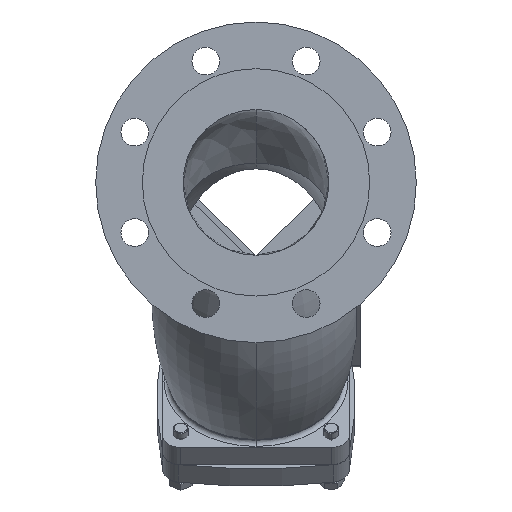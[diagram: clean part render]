
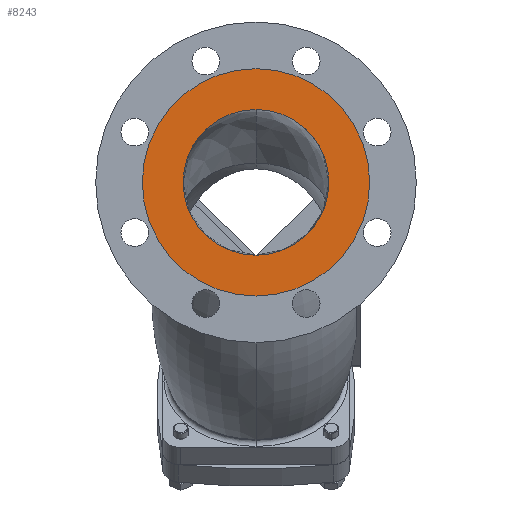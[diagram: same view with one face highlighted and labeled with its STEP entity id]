
A CAD part, left-side view. The second image highlights one B-rep face of the part: STEP entity #8243.
In plain terms, the highlighted planar face has unit normal (-1, 0, 0).
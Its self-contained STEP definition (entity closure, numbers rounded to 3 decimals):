
#7931 = CYLINDRICAL_SURFACE('',#7932,50.);
#7932 = AXIS2_PLACEMENT_3D('',#7933,#7934,#7935);
#7933 = CARTESIAN_POINT('',(336.347,-11.593,
    -56.933));
#7934 = DIRECTION('',(-1.,0.,0.));
#7935 = DIRECTION('',(0.,-1.,0.));
#8002 = CYLINDRICAL_SURFACE('',#8003,50.);
#8003 = AXIS2_PLACEMENT_3D('',#8004,#8005,#8006);
#8004 = CARTESIAN_POINT('',(336.347,-11.593,
    -56.933));
#8005 = DIRECTION('',(-1.,0.,0.));
#8006 = DIRECTION('',(0.,-1.,0.));
#8167 = VERTEX_POINT('',#8168);
#8168 = CARTESIAN_POINT('',(176.925,-61.593,
    -56.933));
#8189 = EDGE_CURVE('',#8190,#8167,#8192,.T.);
#8190 = VERTEX_POINT('',#8191);
#8191 = CARTESIAN_POINT('',(176.925,38.407,
    -56.933));
#8192 = SURFACE_CURVE('',#8193,(#8198,#8205),.PCURVE_S1.);
#8193 = CIRCLE('',#8194,50.);
#8194 = AXIS2_PLACEMENT_3D('',#8195,#8196,#8197);
#8195 = CARTESIAN_POINT('',(176.925,-11.593,
    -56.933));
#8196 = DIRECTION('',(-1.,0.,0.));
#8197 = DIRECTION('',(0.,-1.,0.));
#8198 = PCURVE('',#8002,#8199);
#8199 = DEFINITIONAL_REPRESENTATION('',(#8200),#8204);
#8200 = LINE('',#8201,#8202);
#8201 = CARTESIAN_POINT('',(0.,159.421));
#8202 = VECTOR('',#8203,1.);
#8203 = DIRECTION('',(1.,0.));
#8204 = ( GEOMETRIC_REPRESENTATION_CONTEXT(2) 
PARAMETRIC_REPRESENTATION_CONTEXT() REPRESENTATION_CONTEXT('2D SPACE',''
  ) );
#8205 = PCURVE('',#8206,#8211);
#8206 = PLANE('',#8207);
#8207 = AXIS2_PLACEMENT_3D('',#8208,#8209,#8210);
#8208 = CARTESIAN_POINT('',(176.925,-11.593,
    -56.933));
#8209 = DIRECTION('',(1.,0.,0.));
#8210 = DIRECTION('',(0.,1.,0.));
#8211 = DEFINITIONAL_REPRESENTATION('',(#8212),#8220);
#8212 = ( BOUNDED_CURVE() B_SPLINE_CURVE(2,(#8213,#8214,#8215,#8216,
#8217,#8218,#8219),.UNSPECIFIED.,.T.,.F.) B_SPLINE_CURVE_WITH_KNOTS((1,2
    ,2,2,2,1),(-2.094,0.,2.094,4.189,
6.283,8.378),.UNSPECIFIED.) CURVE() 
GEOMETRIC_REPRESENTATION_ITEM() RATIONAL_B_SPLINE_CURVE((1.,0.5,1.,0.5,
1.,0.5,1.)) REPRESENTATION_ITEM('') );
#8213 = CARTESIAN_POINT('',(-50.,0.));
#8214 = CARTESIAN_POINT('',(-50.,86.603));
#8215 = CARTESIAN_POINT('',(25.,43.301));
#8216 = CARTESIAN_POINT('',(100.,0.));
#8217 = CARTESIAN_POINT('',(25.,-43.301));
#8218 = CARTESIAN_POINT('',(-50.,-86.603));
#8219 = CARTESIAN_POINT('',(-50.,0.));
#8220 = ( GEOMETRIC_REPRESENTATION_CONTEXT(2) 
PARAMETRIC_REPRESENTATION_CONTEXT() REPRESENTATION_CONTEXT('2D SPACE',''
  ) );
#8243 = ADVANCED_FACE('',(#8244,#8312),#8206,.F.);
#8244 = FACE_BOUND('',#8245,.T.);
#8245 = EDGE_LOOP('',(#8246,#8281));
#8246 = ORIENTED_EDGE('',*,*,#8247,.T.);
#8247 = EDGE_CURVE('',#8248,#8250,#8252,.T.);
#8248 = VERTEX_POINT('',#8249);
#8249 = CARTESIAN_POINT('',(176.925,-89.593,
    -56.933));
#8250 = VERTEX_POINT('',#8251);
#8251 = CARTESIAN_POINT('',(176.925,66.407,
    -56.933));
#8252 = SURFACE_CURVE('',#8253,(#8258,#8269),.PCURVE_S1.);
#8253 = CIRCLE('',#8254,78.);
#8254 = AXIS2_PLACEMENT_3D('',#8255,#8256,#8257);
#8255 = CARTESIAN_POINT('',(176.925,-11.593,
    -56.933));
#8256 = DIRECTION('',(-1.,0.,0.));
#8257 = DIRECTION('',(0.,-1.,0.));
#8258 = PCURVE('',#8206,#8259);
#8259 = DEFINITIONAL_REPRESENTATION('',(#8260),#8268);
#8260 = ( BOUNDED_CURVE() B_SPLINE_CURVE(2,(#8261,#8262,#8263,#8264,
#8265,#8266,#8267),.UNSPECIFIED.,.T.,.F.) B_SPLINE_CURVE_WITH_KNOTS((1,2
    ,2,2,2,1),(-2.094,0.,2.094,4.189,
6.283,8.378),.UNSPECIFIED.) CURVE() 
GEOMETRIC_REPRESENTATION_ITEM() RATIONAL_B_SPLINE_CURVE((1.,0.5,1.,0.5,
1.,0.5,1.)) REPRESENTATION_ITEM('') );
#8261 = CARTESIAN_POINT('',(-78.,0.));
#8262 = CARTESIAN_POINT('',(-78.,135.1));
#8263 = CARTESIAN_POINT('',(39.,67.55));
#8264 = CARTESIAN_POINT('',(156.,0.));
#8265 = CARTESIAN_POINT('',(39.,-67.55));
#8266 = CARTESIAN_POINT('',(-78.,-135.1));
#8267 = CARTESIAN_POINT('',(-78.,0.));
#8268 = ( GEOMETRIC_REPRESENTATION_CONTEXT(2) 
PARAMETRIC_REPRESENTATION_CONTEXT() REPRESENTATION_CONTEXT('2D SPACE',''
  ) );
#8269 = PCURVE('',#8270,#8275);
#8270 = CYLINDRICAL_SURFACE('',#8271,78.);
#8271 = AXIS2_PLACEMENT_3D('',#8272,#8273,#8274);
#8272 = CARTESIAN_POINT('',(166.925,-11.593,
    -56.933));
#8273 = DIRECTION('',(-1.,0.,0.));
#8274 = DIRECTION('',(0.,-1.,0.));
#8275 = DEFINITIONAL_REPRESENTATION('',(#8276),#8280);
#8276 = LINE('',#8277,#8278);
#8277 = CARTESIAN_POINT('',(0.,-10.));
#8278 = VECTOR('',#8279,1.);
#8279 = DIRECTION('',(1.,0.));
#8280 = ( GEOMETRIC_REPRESENTATION_CONTEXT(2) 
PARAMETRIC_REPRESENTATION_CONTEXT() REPRESENTATION_CONTEXT('2D SPACE',''
  ) );
#8281 = ORIENTED_EDGE('',*,*,#8282,.T.);
#8282 = EDGE_CURVE('',#8250,#8248,#8283,.T.);
#8283 = SURFACE_CURVE('',#8284,(#8289,#8300),.PCURVE_S1.);
#8284 = CIRCLE('',#8285,78.);
#8285 = AXIS2_PLACEMENT_3D('',#8286,#8287,#8288);
#8286 = CARTESIAN_POINT('',(176.925,-11.593,
    -56.933));
#8287 = DIRECTION('',(-1.,0.,0.));
#8288 = DIRECTION('',(0.,-1.,0.));
#8289 = PCURVE('',#8206,#8290);
#8290 = DEFINITIONAL_REPRESENTATION('',(#8291),#8299);
#8291 = ( BOUNDED_CURVE() B_SPLINE_CURVE(2,(#8292,#8293,#8294,#8295,
#8296,#8297,#8298),.UNSPECIFIED.,.T.,.F.) B_SPLINE_CURVE_WITH_KNOTS((1,2
    ,2,2,2,1),(-2.094,0.,2.094,4.189,
6.283,8.378),.UNSPECIFIED.) CURVE() 
GEOMETRIC_REPRESENTATION_ITEM() RATIONAL_B_SPLINE_CURVE((1.,0.5,1.,0.5,
1.,0.5,1.)) REPRESENTATION_ITEM('') );
#8292 = CARTESIAN_POINT('',(-78.,0.));
#8293 = CARTESIAN_POINT('',(-78.,135.1));
#8294 = CARTESIAN_POINT('',(39.,67.55));
#8295 = CARTESIAN_POINT('',(156.,0.));
#8296 = CARTESIAN_POINT('',(39.,-67.55));
#8297 = CARTESIAN_POINT('',(-78.,-135.1));
#8298 = CARTESIAN_POINT('',(-78.,0.));
#8299 = ( GEOMETRIC_REPRESENTATION_CONTEXT(2) 
PARAMETRIC_REPRESENTATION_CONTEXT() REPRESENTATION_CONTEXT('2D SPACE',''
  ) );
#8300 = PCURVE('',#8301,#8306);
#8301 = CYLINDRICAL_SURFACE('',#8302,78.);
#8302 = AXIS2_PLACEMENT_3D('',#8303,#8304,#8305);
#8303 = CARTESIAN_POINT('',(166.925,-11.593,
    -56.933));
#8304 = DIRECTION('',(-1.,0.,0.));
#8305 = DIRECTION('',(0.,-1.,0.));
#8306 = DEFINITIONAL_REPRESENTATION('',(#8307),#8311);
#8307 = LINE('',#8308,#8309);
#8308 = CARTESIAN_POINT('',(0.,-10.));
#8309 = VECTOR('',#8310,1.);
#8310 = DIRECTION('',(1.,0.));
#8311 = ( GEOMETRIC_REPRESENTATION_CONTEXT(2) 
PARAMETRIC_REPRESENTATION_CONTEXT() REPRESENTATION_CONTEXT('2D SPACE',''
  ) );
#8312 = FACE_BOUND('',#8313,.T.);
#8313 = EDGE_LOOP('',(#8314,#8340));
#8314 = ORIENTED_EDGE('',*,*,#8315,.F.);
#8315 = EDGE_CURVE('',#8167,#8190,#8316,.T.);
#8316 = SURFACE_CURVE('',#8317,(#8322,#8333),.PCURVE_S1.);
#8317 = CIRCLE('',#8318,50.);
#8318 = AXIS2_PLACEMENT_3D('',#8319,#8320,#8321);
#8319 = CARTESIAN_POINT('',(176.925,-11.593,
    -56.933));
#8320 = DIRECTION('',(-1.,0.,0.));
#8321 = DIRECTION('',(0.,-1.,0.));
#8322 = PCURVE('',#8206,#8323);
#8323 = DEFINITIONAL_REPRESENTATION('',(#8324),#8332);
#8324 = ( BOUNDED_CURVE() B_SPLINE_CURVE(2,(#8325,#8326,#8327,#8328,
#8329,#8330,#8331),.UNSPECIFIED.,.T.,.F.) B_SPLINE_CURVE_WITH_KNOTS((1,2
    ,2,2,2,1),(-2.094,0.,2.094,4.189,
6.283,8.378),.UNSPECIFIED.) CURVE() 
GEOMETRIC_REPRESENTATION_ITEM() RATIONAL_B_SPLINE_CURVE((1.,0.5,1.,0.5,
1.,0.5,1.)) REPRESENTATION_ITEM('') );
#8325 = CARTESIAN_POINT('',(-50.,0.));
#8326 = CARTESIAN_POINT('',(-50.,86.603));
#8327 = CARTESIAN_POINT('',(25.,43.301));
#8328 = CARTESIAN_POINT('',(100.,0.));
#8329 = CARTESIAN_POINT('',(25.,-43.301));
#8330 = CARTESIAN_POINT('',(-50.,-86.603));
#8331 = CARTESIAN_POINT('',(-50.,0.));
#8332 = ( GEOMETRIC_REPRESENTATION_CONTEXT(2) 
PARAMETRIC_REPRESENTATION_CONTEXT() REPRESENTATION_CONTEXT('2D SPACE',''
  ) );
#8333 = PCURVE('',#7931,#8334);
#8334 = DEFINITIONAL_REPRESENTATION('',(#8335),#8339);
#8335 = LINE('',#8336,#8337);
#8336 = CARTESIAN_POINT('',(0.,159.421));
#8337 = VECTOR('',#8338,1.);
#8338 = DIRECTION('',(1.,0.));
#8339 = ( GEOMETRIC_REPRESENTATION_CONTEXT(2) 
PARAMETRIC_REPRESENTATION_CONTEXT() REPRESENTATION_CONTEXT('2D SPACE',''
  ) );
#8340 = ORIENTED_EDGE('',*,*,#8189,.F.);
